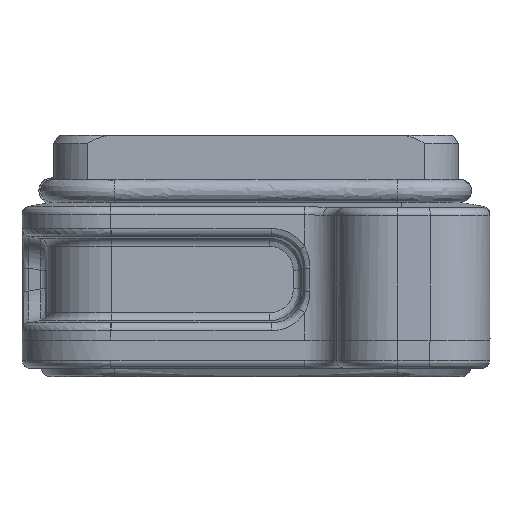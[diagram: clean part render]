
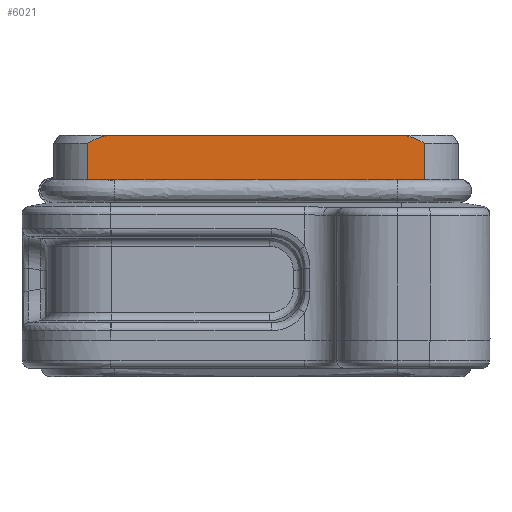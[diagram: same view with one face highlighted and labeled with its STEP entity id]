
A CAD part, left-side view. The second image highlights one B-rep face of the part: STEP entity #6021.
In plain terms, the highlighted planar face has unit normal (-1, 0, 0).
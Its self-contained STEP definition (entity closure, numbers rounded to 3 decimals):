
#5141=B_SPLINE_CURVE_WITH_KNOTS('',3,(#24605,#24606,#24607,#24608),
 .UNSPECIFIED.,.F.,.F.,(4,4),(0.,1.),.UNSPECIFIED.);
#5142=B_SPLINE_CURVE_WITH_KNOTS('',3,(#24612,#24613,#24614,#24615),
 .UNSPECIFIED.,.F.,.F.,(4,4),(0.,1.),.UNSPECIFIED.);
#5143=B_SPLINE_CURVE_WITH_KNOTS('',3,(#24619,#24620,#24621,#24622),
 .UNSPECIFIED.,.F.,.F.,(4,4),(0.,1.),.UNSPECIFIED.);
#5144=B_SPLINE_CURVE_WITH_KNOTS('',3,(#24626,#24627,#24628,#24629),
 .UNSPECIFIED.,.F.,.F.,(4,4),(0.,1.),.UNSPECIFIED.);
#5300=FACE_OUTER_BOUND('',#7403,.T.);
#6021=ADVANCED_FACE('',(#5300),#6800,.F.);
#6800=PLANE('',#19352);
#7403=EDGE_LOOP('',(#8598,#8599,#8600,#8601,#8602,#8603,#8604,#8605));
#8598=ORIENTED_EDGE('',*,*,#13776,.F.);
#8599=ORIENTED_EDGE('',*,*,#13777,.F.);
#8600=ORIENTED_EDGE('',*,*,#13778,.F.);
#8601=ORIENTED_EDGE('',*,*,#13779,.T.);
#8602=ORIENTED_EDGE('',*,*,#13780,.F.);
#8603=ORIENTED_EDGE('',*,*,#13781,.F.);
#8604=ORIENTED_EDGE('',*,*,#13782,.F.);
#8605=ORIENTED_EDGE('',*,*,#13763,.T.);
#12516=VERTEX_POINT('',#24550);
#12517=VERTEX_POINT('',#24552);
#12526=VERTEX_POINT('',#24609);
#12527=VERTEX_POINT('',#24611);
#12528=VERTEX_POINT('',#24616);
#12529=VERTEX_POINT('',#24618);
#12530=VERTEX_POINT('',#24623);
#12531=VERTEX_POINT('',#24625);
#13763=EDGE_CURVE('',#12517,#12516,#15680,.T.);
#13776=EDGE_CURVE('',#12526,#12516,#5141,.T.);
#13777=EDGE_CURVE('',#12527,#12526,#15683,.T.);
#13778=EDGE_CURVE('',#12528,#12527,#5142,.T.);
#13779=EDGE_CURVE('',#12528,#12529,#15684,.T.);
#13780=EDGE_CURVE('',#12530,#12529,#5143,.T.);
#13781=EDGE_CURVE('',#12531,#12530,#15685,.T.);
#13782=EDGE_CURVE('',#12517,#12531,#5144,.T.);
#15680=LINE('',#24551,#16924);
#15683=LINE('',#24610,#16927);
#15684=LINE('',#24617,#16928);
#15685=LINE('',#24624,#16929);
#16924=VECTOR('',#20692,1.);
#16927=VECTOR('',#20711,1.);
#16928=VECTOR('',#20712,1.);
#16929=VECTOR('',#20713,1.);
#19352=AXIS2_PLACEMENT_3D('',#24630,#20714,#20715);
#20692=DIRECTION('',(0.,0.,-1.));
#20711=DIRECTION('',(0.,1.,0.));
#20712=DIRECTION('',(0.,0.,1.));
#20713=DIRECTION('',(0.,-1.,0.));
#20714=DIRECTION('',(1.,0.,0.));
#20715=DIRECTION('',(0.,0.,1.));
#24550=CARTESIAN_POINT('',(-59.8,20.919,3.49));
#24551=CARTESIAN_POINT('',(-59.8,20.919,9.));
#24552=CARTESIAN_POINT('',(-59.8,20.919,7.971));
#24605=CARTESIAN_POINT('',(-59.8,17.5,3.365));
#24606=CARTESIAN_POINT('',(-59.8,18.642,3.365));
#24607=CARTESIAN_POINT('',(-59.8,19.779,3.55));
#24608=CARTESIAN_POINT('',(-59.8,20.919,3.49));
#24609=CARTESIAN_POINT('',(-59.8,17.5,3.365));
#24610=CARTESIAN_POINT('',(-59.8,0.,3.365));
#24611=CARTESIAN_POINT('',(-59.8,-17.5,3.365));
#24612=CARTESIAN_POINT('',(-59.8,-20.919,3.49));
#24613=CARTESIAN_POINT('',(-59.8,-19.778,3.55));
#24614=CARTESIAN_POINT('',(-59.8,-18.642,3.365));
#24615=CARTESIAN_POINT('',(-59.8,-17.5,3.365));
#24616=CARTESIAN_POINT('',(-59.8,-20.919,3.49));
#24617=CARTESIAN_POINT('',(-59.8,-20.919,9.));
#24618=CARTESIAN_POINT('',(-59.8,-20.919,7.971));
#24619=CARTESIAN_POINT('',(-59.8,-17.8,9.));
#24620=CARTESIAN_POINT('',(-59.8,-18.911,9.));
#24621=CARTESIAN_POINT('',(-59.8,-19.986,8.557));
#24622=CARTESIAN_POINT('',(-59.8,-20.919,7.971));
#24623=CARTESIAN_POINT('',(-59.8,-17.8,9.));
#24624=CARTESIAN_POINT('',(-59.8,-17.8,9.));
#24625=CARTESIAN_POINT('',(-59.8,17.8,9.));
#24626=CARTESIAN_POINT('',(-59.8,20.919,7.971));
#24627=CARTESIAN_POINT('',(-59.8,19.986,8.557));
#24628=CARTESIAN_POINT('',(-59.8,18.909,9.));
#24629=CARTESIAN_POINT('',(-59.8,17.8,9.));
#24630=CARTESIAN_POINT('',(-59.8,24.4,3.5));
